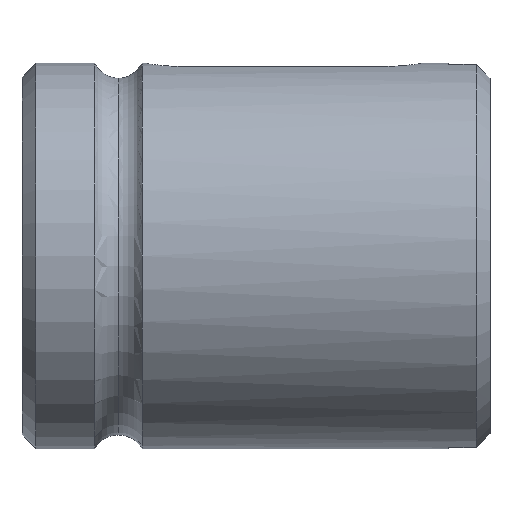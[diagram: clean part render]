
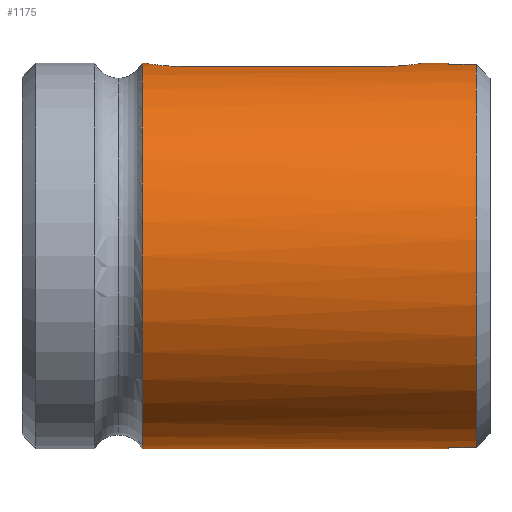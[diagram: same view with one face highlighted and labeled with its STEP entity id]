
A CAD part, front view. The second image highlights one B-rep face of the part: STEP entity #1175.
In plain terms, the highlighted cylindrical face has radius 14 mm (diameter 28 mm), a partial arc.
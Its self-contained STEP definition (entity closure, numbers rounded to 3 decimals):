
#46 = LINE ( 'NONE', #1144, #255 ) ;
#55 = CARTESIAN_POINT ( 'NONE',  ( -5.847, -1.882, 13.873 ) ) ;
#66 = DIRECTION ( 'NONE',  ( -1., 0., 0. ) ) ;
#68 = CARTESIAN_POINT ( 'NONE',  ( -25., 0., 14. ) ) ;
#71 = CARTESIAN_POINT ( 'NONE',  ( -24.488, -1.525, 13.917 ) ) ;
#77 = EDGE_CURVE ( 'NONE', #82, #376, #102, .T. ) ;
#78 = EDGE_LOOP ( 'NONE', ( #533, #178, #741, #963, #1048, #510, #689, #257, #755, #1108, #912, #727 ) ) ;
#82 = VERTEX_POINT ( 'NONE', #1109 ) ;
#84 = CARTESIAN_POINT ( 'NONE',  ( -3., 0., 0. ) ) ;
#100 = LINE ( 'NONE', #910, #1031 ) ;
#102 = LINE ( 'NONE', #444, #788 ) ;
#121 = CIRCLE ( 'NONE', #273, 14. ) ;
#125 = LINE ( 'NONE', #296, #339 ) ;
#141 = CARTESIAN_POINT ( 'NONE',  ( -5.315, -1.258, 13.947 ) ) ;
#147 = CARTESIAN_POINT ( 'NONE',  ( -1., -1.5, 13.919 ) ) ;
#161 = CARTESIAN_POINT ( 'NONE',  ( -25., -0.163, 14. ) ) ;
#164 = CARTESIAN_POINT ( 'NONE',  ( -24.152, -1.884, 13.873 ) ) ;
#168 = DIRECTION ( 'NONE',  ( 0., -1., 0. ) ) ;
#178 = ORIENTED_EDGE ( 'NONE', *, *, #306, .T. ) ;
#199 = CIRCLE ( 'NONE', #351, 14. ) ;
#209 = CARTESIAN_POINT ( 'NONE',  ( -1., 0., 0. ) ) ;
#220 = EDGE_CURVE ( 'NONE', #1012, #223, #421, .T. ) ;
#222 = DIRECTION ( 'NONE',  ( 0., 0., 1. ) ) ;
#223 = VERTEX_POINT ( 'NONE', #466 ) ;
#224 = CARTESIAN_POINT ( 'NONE',  ( -25.268, 0., 0. ) ) ;
#232 = CARTESIAN_POINT ( 'NONE',  ( -5.08, -0.649, 13.986 ) ) ;
#254 = CARTESIAN_POINT ( 'NONE',  ( -23.756, -2.168, 13.831 ) ) ;
#255 = VECTOR ( 'NONE', #66, 1000. ) ;
#257 = ORIENTED_EDGE ( 'NONE', *, *, #463, .F. ) ;
#267 = CARTESIAN_POINT ( 'NONE',  ( -67.863, -1.5, 13.919 ) ) ;
#273 = AXIS2_PLACEMENT_3D ( 'NONE', #1167, #370, #1004 ) ;
#284 = VERTEX_POINT ( 'NONE', #772 ) ;
#285 = DIRECTION ( 'NONE',  ( -1., 0., 0. ) ) ;
#296 = CARTESIAN_POINT ( 'NONE',  ( -67.863, -2.5, 13.775 ) ) ;
#301 = VERTEX_POINT ( 'NONE', #147 ) ;
#303 = DIRECTION ( 'NONE',  ( 0., 0., 1. ) ) ;
#306 = EDGE_CURVE ( 'NONE', #838, #970, #121, .T. ) ;
#314 = DIRECTION ( 'NONE',  ( 0., 0., 1. ) ) ;
#323 = CARTESIAN_POINT ( 'NONE',  ( -7.334, -2.5, 13.775 ) ) ;
#326 = CARTESIAN_POINT ( 'NONE',  ( -5., -0.163, 14. ) ) ;
#339 = VECTOR ( 'NONE', #383, 1000. ) ;
#345 = CARTESIAN_POINT ( 'NONE',  ( -23.308, -2.372, 13.798 ) ) ;
#351 = AXIS2_PLACEMENT_3D ( 'NONE', #224, #846, #314 ) ;
#370 = DIRECTION ( 'NONE',  ( -1., 0., 0. ) ) ;
#371 = FACE_OUTER_BOUND ( 'NONE', #78, .T. ) ;
#376 = VERTEX_POINT ( 'NONE', #572 ) ;
#378 = CARTESIAN_POINT ( 'NONE',  ( -7.5, -2.5, 13.775 ) ) ;
#383 = DIRECTION ( 'NONE',  ( 1., 0., 0. ) ) ;
#384 = VECTOR ( 'NONE', #992, 1000. ) ;
#388 = AXIS2_PLACEMENT_3D ( 'NONE', #410, #940, #222 ) ;
#410 = CARTESIAN_POINT ( 'NONE',  ( -67.863, 0., 0. ) ) ;
#414 = CARTESIAN_POINT ( 'NONE',  ( -6.852, -2.42, 13.789 ) ) ;
#416 = B_SPLINE_CURVE_WITH_KNOTS ( 'NONE', 3,
 ( #68, #161, #430, #1064, #522, #1152, #613, #71, #702, #164, #790, #254, #882, #345, #978, #434, #1069, #530 ),
 .UNSPECIFIED., .F., .F.,
 ( 4, 2, 2, 2, 2, 2, 2, 2, 4 ),
 ( 0.004, 0.004, 0.005, 0.005, 0.006, 0.006, 0.007, 0.007, 0.008 ),
 .UNSPECIFIED. ) ;
#421 = CIRCLE ( 'NONE', #1088, 14. ) ;
#430 = CARTESIAN_POINT ( 'NONE',  ( -24.984, -0.329, 13.997 ) ) ;
#434 = CARTESIAN_POINT ( 'NONE',  ( -22.831, -2.483, 13.778 ) ) ;
#444 = CARTESIAN_POINT ( 'NONE',  ( -67.863, 0., 14. ) ) ;
#463 = EDGE_CURVE ( 'NONE', #724, #284, #1102, .T. ) ;
#466 = CARTESIAN_POINT ( 'NONE',  ( -3., 0., 14. ) ) ;
#482 = EDGE_CURVE ( 'NONE', #970, #1177, #1168, .T. ) ;
#502 = CARTESIAN_POINT ( 'NONE',  ( -6.39, -2.246, 13.819 ) ) ;
#510 = ORIENTED_EDGE ( 'NONE', *, *, #220, .T. ) ;
#522 = CARTESIAN_POINT ( 'NONE',  ( -24.872, -0.806, 13.978 ) ) ;
#530 = CARTESIAN_POINT ( 'NONE',  ( -22.5, -2.5, 13.775 ) ) ;
#533 = ORIENTED_EDGE ( 'NONE', *, *, #738, .F. ) ;
#572 = CARTESIAN_POINT ( 'NONE',  ( -25.268, 0., 14. ) ) ;
#594 = CARTESIAN_POINT ( 'NONE',  ( -5.975, -1.988, 13.858 ) ) ;
#606 = CARTESIAN_POINT ( 'NONE',  ( -3., 0., -14. ) ) ;
#613 = CARTESIAN_POINT ( 'NONE',  ( -24.669, -1.254, 13.944 ) ) ;
#624 = DIRECTION ( 'NONE',  ( -1., 0., 0. ) ) ;
#681 = CARTESIAN_POINT ( 'NONE',  ( -5.501, -1.537, 13.917 ) ) ;
#689 = ORIENTED_EDGE ( 'NONE', *, *, #853, .T. ) ;
#702 = CARTESIAN_POINT ( 'NONE',  ( -24.384, -1.651, 13.903 ) ) ;
#705 = CARTESIAN_POINT ( 'NONE',  ( -3., -1.5, -13.919 ) ) ;
#709 = CARTESIAN_POINT ( 'NONE',  ( -3., -1.5, 13.919 ) ) ;
#711 = DIRECTION ( 'NONE',  ( -1., 0., 0. ) ) ;
#724 = VERTEX_POINT ( 'NONE', #378 ) ;
#727 = ORIENTED_EDGE ( 'NONE', *, *, #943, .F. ) ;
#738 = EDGE_CURVE ( 'NONE', #838, #869, #100, .T. ) ;
#741 = ORIENTED_EDGE ( 'NONE', *, *, #482, .T. ) ;
#755 = ORIENTED_EDGE ( 'NONE', *, *, #761, .F. ) ;
#757 = CARTESIAN_POINT ( 'NONE',  ( -1., -1.5, -13.919 ) ) ;
#761 = EDGE_CURVE ( 'NONE', #885, #724, #125, .T. ) ;
#768 = CARTESIAN_POINT ( 'NONE',  ( -7.5, -2.5, 13.775 ) ) ;
#771 = CARTESIAN_POINT ( 'NONE',  ( -5.128, -0.807, 13.978 ) ) ;
#772 = CARTESIAN_POINT ( 'NONE',  ( -5., 0., 14. ) ) ;
#782 = EDGE_CURVE ( 'NONE', #1177, #301, #1059, .T. ) ;
#788 = VECTOR ( 'NONE', #624, 1000. ) ;
#789 = AXIS2_PLACEMENT_3D ( 'NONE', #209, #833, #303 ) ;
#790 = CARTESIAN_POINT ( 'NONE',  ( -24.026, -1.987, 13.859 ) ) ;
#826 = LINE ( 'NONE', #267, #384 ) ;
#833 = DIRECTION ( 'NONE',  ( -1., 0., 0. ) ) ;
#838 = VERTEX_POINT ( 'NONE', #606 ) ;
#846 = DIRECTION ( 'NONE',  ( -1., 0., 0. ) ) ;
#853 = EDGE_CURVE ( 'NONE', #223, #284, #46, .T. ) ;
#855 = DIRECTION ( 'NONE',  ( 1., 0., 0. ) ) ;
#858 = CARTESIAN_POINT ( 'NONE',  ( -5.016, -0.326, 13.997 ) ) ;
#869 = VERTEX_POINT ( 'NONE', #929 ) ;
#882 = CARTESIAN_POINT ( 'NONE',  ( -23.61, -2.246, 13.819 ) ) ;
#885 = VERTEX_POINT ( 'NONE', #1025 ) ;
#910 = CARTESIAN_POINT ( 'NONE',  ( -67.863, 0., -14. ) ) ;
#912 = ORIENTED_EDGE ( 'NONE', *, *, #77, .T. ) ;
#929 = CARTESIAN_POINT ( 'NONE',  ( -25.268, 0., -14. ) ) ;
#940 = DIRECTION ( 'NONE',  ( -1., 0., 0. ) ) ;
#943 = EDGE_CURVE ( 'NONE', #869, #376, #199, .T. ) ;
#949 = CARTESIAN_POINT ( 'NONE',  ( -7.172, -2.484, 13.778 ) ) ;
#956 = CARTESIAN_POINT ( 'NONE',  ( -5., 0., 14. ) ) ;
#963 = ORIENTED_EDGE ( 'NONE', *, *, #782, .T. ) ;
#970 = VERTEX_POINT ( 'NONE', #705 ) ;
#978 = CARTESIAN_POINT ( 'NONE',  ( -23.152, -2.419, 13.789 ) ) ;
#985 = VECTOR ( 'NONE', #855, 1000. ) ;
#992 = DIRECTION ( 'NONE',  ( -1., 0., 0. ) ) ;
#1004 = DIRECTION ( 'NONE',  ( 0., -1., 0. ) ) ;
#1012 = VERTEX_POINT ( 'NONE', #709 ) ;
#1025 = CARTESIAN_POINT ( 'NONE',  ( -22.5, -2.5, 13.775 ) ) ;
#1030 = EDGE_CURVE ( 'NONE', #301, #1012, #826, .T. ) ;
#1031 = VECTOR ( 'NONE', #285, 1000. ) ;
#1033 = CYLINDRICAL_SURFACE ( 'NONE', #388, 14. ) ;
#1042 = CARTESIAN_POINT ( 'NONE',  ( -67.863, -1.5, -13.919 ) ) ;
#1044 = CARTESIAN_POINT ( 'NONE',  ( -6.693, -2.372, 13.798 ) ) ;
#1048 = ORIENTED_EDGE ( 'NONE', *, *, #1030, .T. ) ;
#1059 = CIRCLE ( 'NONE', #789, 14. ) ;
#1064 = CARTESIAN_POINT ( 'NONE',  ( -24.92, -0.65, 13.986 ) ) ;
#1067 = EDGE_CURVE ( 'NONE', #82, #885, #416, .T. ) ;
#1069 = CARTESIAN_POINT ( 'NONE',  ( -22.665, -2.5, 13.775 ) ) ;
#1088 = AXIS2_PLACEMENT_3D ( 'NONE', #84, #711, #168 ) ;
#1102 = B_SPLINE_CURVE_WITH_KNOTS ( 'NONE', 3,
 ( #768, #323, #949, #414, #1044, #502, #1132, #594, #55, #681, #141, #771, #232, #858, #326, #956 ),
 .UNSPECIFIED., .F., .F.,
 ( 4, 2, 2, 2, 2, 2, 2, 4 ),
 ( 0., 0., 0.001, 0.001, 0.002, 0.003, 0.003, 0.004 ),
 .UNSPECIFIED. ) ;
#1108 = ORIENTED_EDGE ( 'NONE', *, *, #1067, .F. ) ;
#1109 = CARTESIAN_POINT ( 'NONE',  ( -25., 0., 14. ) ) ;
#1132 = CARTESIAN_POINT ( 'NONE',  ( -6.246, -2.169, 13.831 ) ) ;
#1144 = CARTESIAN_POINT ( 'NONE',  ( -67.863, 0., 14. ) ) ;
#1152 = CARTESIAN_POINT ( 'NONE',  ( -24.747, -1.109, 13.957 ) ) ;
#1167 = CARTESIAN_POINT ( 'NONE',  ( -3., 0., 0. ) ) ;
#1168 = LINE ( 'NONE', #1042, #985 ) ;
#1175 = ADVANCED_FACE ( 'NONE', ( #371 ), #1033, .T. ) ;
#1177 = VERTEX_POINT ( 'NONE', #757 ) ;
